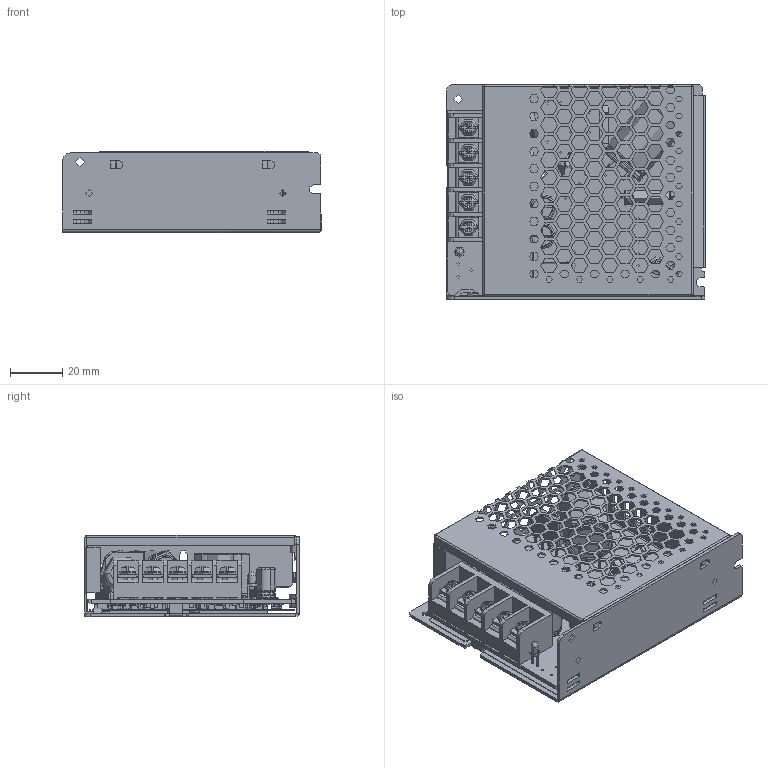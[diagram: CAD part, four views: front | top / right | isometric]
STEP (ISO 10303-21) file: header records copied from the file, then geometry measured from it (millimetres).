
FILE_DESCRIPTION( ('This file contains a STEP AP42 implementation' ,'as created by ZW3D STEP Interface translator.') ,'2;1' );
FILE_NAME( 'ERS35W.stp' ,'25 527.17 717', (''), ('ZWCAD Software Co.'), 'Version 1.0', 'ZW3D to STEP translator', '' );
FILE_SCHEMA(('AUTOMOTIVE_DESIGN { 1 0 10303 214 1 1 1 1 }'));
Length unit declared in the file: millimetre
Products named in the file (1): 0
Bounding box: 99 x 82 x 31 mm (x, y, z)
Topology: 170 solids, 174 shells, 8438 faces, 30290 edges, 32513 vertices
Faces by surface type: plane 4500, bspline 2479, cylinder 1079, torus 222, sphere 154, cone 4
Full cylindrical faces by diameter (mm): 0.6 x11, 0.7 x6, 0.75 x4, 0.8 x6, 0.9 x6, 1 x28, 1.1 x9, 1.15 x2, 1.2 x4, 1.6 x2, 2.6 x1, 2.7 x5, 3.5 x3, 4 x5, 5 x1, 5.3 x1, 5.5 x1, 5.7 x2, 8 x6
Entity records: 519572 total; most frequent: CARTESIAN_POINT 280795, ORIENTED_EDGE 40572, DIRECTION 39605, VECTOR 21967, LINE 21967, EDGE_CURVE 20286, VERTEX_POINT 12659, TRIMMED_CURVE 10088
